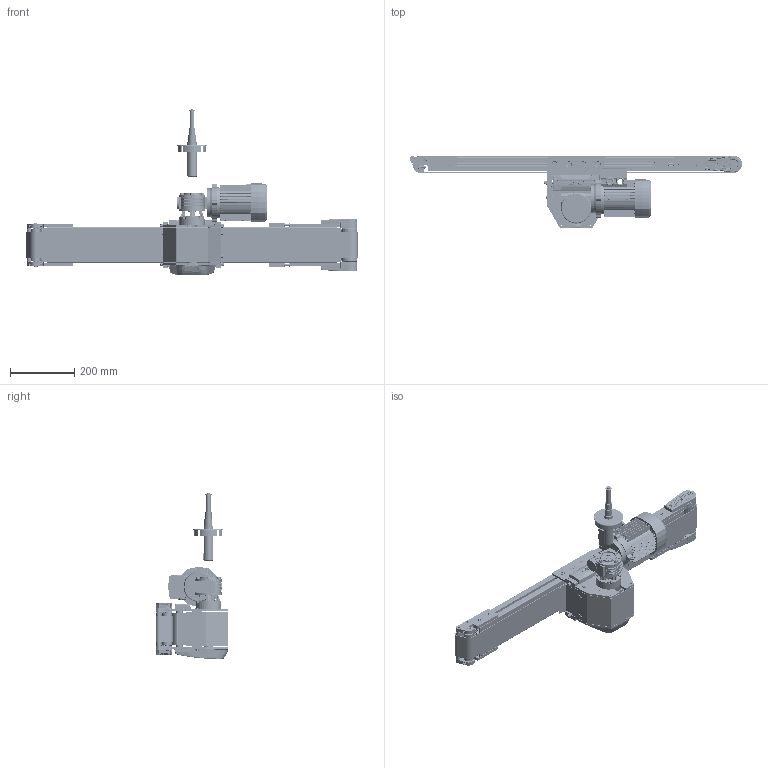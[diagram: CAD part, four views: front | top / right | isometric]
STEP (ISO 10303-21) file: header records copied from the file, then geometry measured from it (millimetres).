
FILE_DESCRIPTION (( 'STEP AP203' ), '1' );
FILE_NAME ('NASTRO_RETTILINEO_TAPPETO.step', '2026-06-02T08:37:32', ( 'Utente Windows' ), ( '' ), 'SwSTEP 2.0', 'SolidWorks 2024', '' );
FILE_SCHEMA (( 'CONFIG_CONTROL_DESIGN' ));
Length unit declared in the file: millimetre
Products named in the file (80): 084.302.000 DADI ALUSIC 13x13_084.302.015; VITI TSEI UNI 5933_M8x20 UNI 5933; CHIAVETTE_A 8x7x20 UNI 6604-69; RULLO_SUP_50_PENNA; 084.302.000 DADI ALUSIC 13x13-1_084.302.007; RONDELLE FASCIA LARGA UNI 6593_5.4x20 UNI 6593; VITI TCEI UNI 5931_M6x30 UNI 5931; VITI TE UNI 5739 INOX_M5x12 UNI 5739 INOX; RONDELLE UNI 6592_6.4x12.5 UNI 6592; VITE_DADO_M6X12; VITE_RONDELLA_M8X20; 084.302.000 DADI ALUSIC 13x13_084.302.004; VITI TSEI UNI 5933_M6x12 UNI 5933; 12UNI7435; 084.802.064; NASTRO_RETTILINEO_TAPPETO; 084.303.001; 084.809.007; BLOCCO_RINVIO_50_PENNA_DX; 084.301.000 VITI ALUSIC_084.301.036; BLOCCO_RINVIO_50_STANDARD; 084.802.020; BLOCCO_TRAINO_50-95_CENTRALE_30; RULLO_95_Default<A macchina>; VITI TSEI UNI 5933_M5x12 UNI 5933; 084.302.017; BLOCCO_PERNO_50_RINVIO; 08UNI7435; BLOCCO_PERNO_50_CENTRALE_30; VITE_DADO_M5X12; 084.802.017_084.802.017; VITI TE UNI 5739_M6x12 UNI 5739; 084.810.001; 084.301.000 VITI ALUSIC_084.301.009; 084.802.021; 084.301.000 VITI ALUSIC_084.301.003; VITI TE UNI 5739_M8x12 UNI 5739; 084.807.002_084.807.002; 084.802.070; VITI TSEI UNI 5933_M8x16 UNI 5933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
Assembly tree (161 placements, depth 3):
  NASTRO_RETTILINEO_TAPPETO
    TAPPETO_CENTRALE_1PENNA
    TELAIO_50_STANDARD_Default<A macchina>
    LAMIERA_1_PENNA
    RULLO_50_Default<A macchina>
    BLOCCO_PERNO_50_RINVIO  x2
      084.811.004
      084.810.001
    BLOCCO_RINVIO_50_STANDARD  x2
      084.807.002_084.807.002
      084.802.017_084.802.017
      084.802.008
      084.301.000 VITI ALUSIC_084.301.003
      084.302.000 DADI ALUSIC 13x13_084.302.004
      VITI TSEI UNI 5933_M4x10 UNI 5933
      084.802.071
    RULLO_SUP_50_PENNA
    BLOCCO_RINVIO_50_PENNA_SX
      084.807.016_084.807.002
      084.809.007
      084.802.036
      VITI TCEI UNI 5931_M6x30 UNI 5931
      RONDELLE UNI 6592_5.3x10 UNI 6592  x2
      084.302.000 DADI ALUSIC 9x9_084.302.014  x2
      VITI TCEI UNI 5931_M6x20 UNI 5931
      084.301.000 VITI ALUSIC_084.301.036
      084.302.016
      084.301.000 VITI ALUSIC_084.301.003  x2
      VITI TE UNI 5739 INOX_M5x12 UNI 5739 INOX  x2
      12UNI7435
      08UNI7435  x3
    BLOCCO_RINVIO_50_PENNA_DX
      084.802.036
      084.807.015_084.807.002
      VITI TCEI UNI 5931_M6x30 UNI 5931
      084.827.040
      VITI TCEI UNI 5931_M6x20 UNI 5931
      084.301.000 VITI ALUSIC_084.301.036
      084.302.016
      084.301.000 VITI ALUSIC_084.301.003  x2
      08UNI7435
      12UNI7435
    PERNO_SUP_95_PENNA
    RULLO_INF_50_PENNA
    PERNO_INF_50_PENNA
    RULLO_95_Default<A macchina>
    BLOCCO_TRAINO_50-95_CENTRALE_30
      084.802.009
      084.802.021
      084.802.004-1  x2
      084.802.003
      VITI TSEI UNI 5933_M8x20 UNI 5933  x4
      084.302.017
      VITI TE UNI 5739_M6x16 UNI 5739  x6
      RONDELLE UNI 6592_6.4x12.5 UNI 6592  x2
      DADI ESAGONALI NORMALI UNI 5588_M6 UNI 5588  x2
      VITI TE UNI 5739_M6x50 UNI 5739  x2
      VITI TSEI UNI 5933_M6x12 UNI 5933  x6
      VITI TSEI UNI 5933_M8x16 UNI 5933  x3
      084.802.070
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Bounding box: 1037 x 227.5 x 518.3 mm (x, y, z)
Volume: 5022942.3 mm3; surface area: 3091263.2 mm2
Topology: 201 solids, 205 shells, 8138 faces, 20755 edges, 13213 vertices
Faces by surface type: plane 3457, cylinder 2636, cone 909, bspline 745, torus 320, sphere 71
Entity records: 220383 total; most frequent: CARTESIAN_POINT 81563, ORIENTED_EDGE 28500, DIRECTION 24618, EDGE_CURVE 14250, AXIS2_PLACEMENT_3D 9129, VERTEX_POINT 9124, LINE 6360, VECTOR 6360
